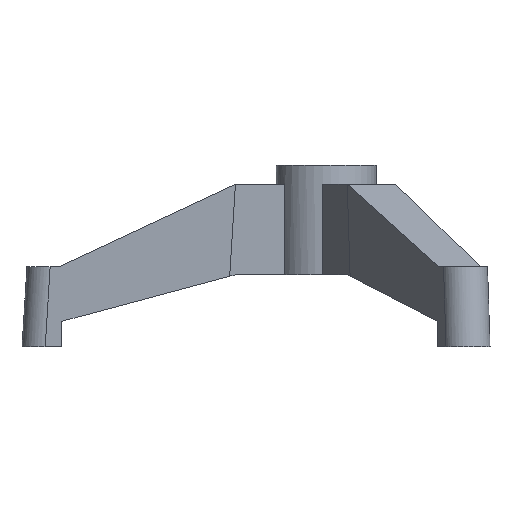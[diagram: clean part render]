
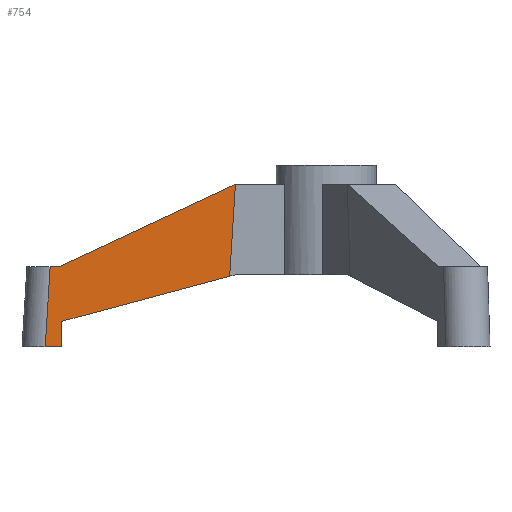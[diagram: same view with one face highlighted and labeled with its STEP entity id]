
A CAD part, left-side view. The second image highlights one B-rep face of the part: STEP entity #754.
In plain terms, the highlighted planar face has unit normal (-1, 0.024, 0.002).
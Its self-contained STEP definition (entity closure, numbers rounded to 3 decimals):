
#87=LINE('',#1224,#168);
#89=LINE('',#1228,#170);
#90=LINE('',#1231,#171);
#91=LINE('',#1233,#172);
#92=LINE('',#1235,#173);
#93=LINE('',#1237,#174);
#94=LINE('',#1238,#175);
#168=VECTOR('',#1002,13.426);
#170=VECTOR('',#1006,20.21);
#171=VECTOR('',#1009,139.043);
#172=VECTOR('',#1010,73.881);
#173=VECTOR('',#1011,155.77);
#174=VECTOR('',#1012,7.224);
#175=VECTOR('',#1013,64.125);
#206=PLANE('',#819);
#266=FACE_OUTER_BOUND('',#316,.T.);
#316=EDGE_LOOP('',(#675,#676,#677,#678,#679,#680,#681));
#404=VERTEX_POINT('',#1220);
#405=VERTEX_POINT('',#1222);
#406=VERTEX_POINT('',#1226);
#407=VERTEX_POINT('',#1230);
#408=VERTEX_POINT('',#1232);
#409=VERTEX_POINT('',#1234);
#410=VERTEX_POINT('',#1236);
#498=EDGE_CURVE('',#405,#404,#87,.T.);
#500=EDGE_CURVE('',#406,#405,#89,.T.);
#501=EDGE_CURVE('',#407,#406,#90,.T.);
#502=EDGE_CURVE('',#408,#407,#91,.T.);
#503=EDGE_CURVE('',#409,#408,#92,.T.);
#504=EDGE_CURVE('',#410,#409,#93,.T.);
#505=EDGE_CURVE('',#404,#410,#94,.T.);
#675=ORIENTED_EDGE('',*,*,#501,.F.);
#676=ORIENTED_EDGE('',*,*,#502,.F.);
#677=ORIENTED_EDGE('',*,*,#503,.F.);
#678=ORIENTED_EDGE('',*,*,#504,.F.);
#679=ORIENTED_EDGE('',*,*,#505,.F.);
#680=ORIENTED_EDGE('',*,*,#498,.F.);
#681=ORIENTED_EDGE('',*,*,#500,.F.);
#754=ADVANCED_FACE('',(#266),#206,.F.);
#819=AXIS2_PLACEMENT_3D('',#1229,#1007,#1008);
#1002=DIRECTION('',(0.024,1.,0.));
#1006=DIRECTION('',(-0.001,0.,-1.));
#1007=DIRECTION('center_axis',(1.,-0.024,-0.001));
#1008=DIRECTION('ref_axis',(0.024,0.998,0.062));
#1009=DIRECTION('',(0.022,0.966,-0.259));
#1010=DIRECTION('',(0.,0.062,-0.998));
#1011=DIRECTION('',(-0.021,-0.906,0.424));
#1012=DIRECTION('',(-0.024,-1.,0.));
#1013=DIRECTION('',(0.,-0.062,0.998));
#1220=CARTESIAN_POINT('',(-18.986,224.912,-57.5));
#1222=CARTESIAN_POINT('',(-19.303,211.49,-57.5));
#1224=CARTESIAN_POINT('',(-20.836,146.667,-57.5));
#1226=CARTESIAN_POINT('',(-19.273,211.49,-37.29));
#1228=CARTESIAN_POINT('',(-19.296,211.49,-52.449));
#1229=CARTESIAN_POINT('Origin',(-22.395,81.388,-67.631));
#1230=CARTESIAN_POINT('',(-22.395,77.239,-1.238));
#1231=CARTESIAN_POINT('',(-22.205,85.423,-3.436));
#1232=CARTESIAN_POINT('',(-22.395,72.63,72.5));
#1233=CARTESIAN_POINT('',(-22.395,79.137,-31.604));
#1234=CARTESIAN_POINT('',(-19.157,213.69,6.5));
#1235=CARTESIAN_POINT('',(-20.072,173.815,25.157));
#1236=CARTESIAN_POINT('',(-18.986,220.912,6.5));
#1237=CARTESIAN_POINT('',(-20.411,160.657,6.5));
#1238=CARTESIAN_POINT('',(-18.986,224.985,-58.657));
